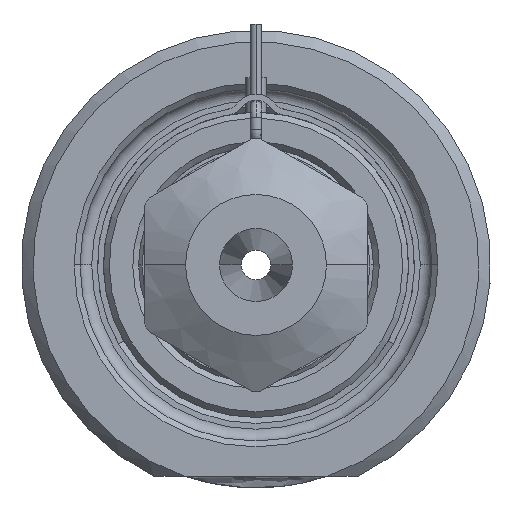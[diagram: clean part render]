
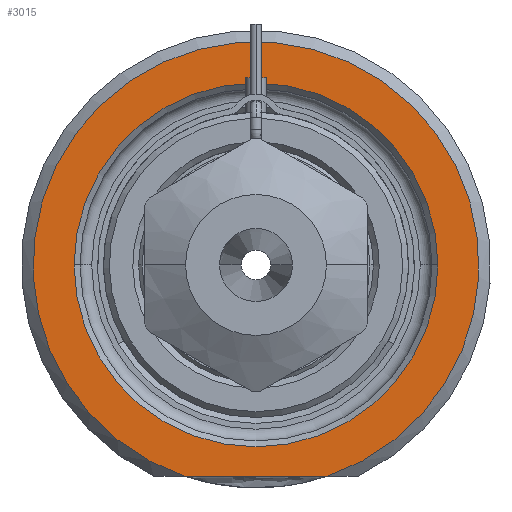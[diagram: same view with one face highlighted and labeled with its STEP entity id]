
A CAD part, front view. The second image highlights one B-rep face of the part: STEP entity #3015.
In plain terms, the highlighted planar face has unit normal (0, -1, 0).
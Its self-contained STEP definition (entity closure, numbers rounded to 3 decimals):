
#1=DIRECTION('',(1.,0.,0.));
#2=VECTOR('',#1,12.166);
#3=CARTESIAN_POINT('',(-6.083,0.,-18.));
#4=LINE('',#3,#2);
#5=CARTESIAN_POINT('',(0.,0.,0.));
#6=DIRECTION('',(0.,1.,0.));
#7=DIRECTION('',(-1.,0.,0.));
#8=AXIS2_PLACEMENT_3D('',#5,#6,#7);
#10=CARTESIAN_POINT('',(0.,0.,0.));
#11=DIRECTION('',(0.,1.,0.));
#12=DIRECTION('',(1.,0.,0.));
#13=AXIS2_PLACEMENT_3D('',#10,#11,#12);
#264=CARTESIAN_POINT('',(0.,0.,0.));
#265=DIRECTION('',(0.,-1.,0.));
#266=DIRECTION('',(0.32,0.,-0.947));
#267=AXIS2_PLACEMENT_3D('',#264,#265,#266);
#2547=CARTESIAN_POINT('',(-15.5,0.,0.));
#2548=CARTESIAN_POINT('',(15.5,0.,0.));
#2549=VERTEX_POINT('',#2547);
#2550=VERTEX_POINT('',#2548);
#2605=CARTESIAN_POINT('',(-6.083,0.,-18.));
#2606=CARTESIAN_POINT('',(6.083,0.,-18.));
#2607=VERTEX_POINT('',#2605);
#2608=VERTEX_POINT('',#2606);
#2998=CARTESIAN_POINT('',(0.,0.,0.));
#2999=DIRECTION('',(0.,-1.,0.));
#3000=DIRECTION('',(1.,0.,0.));
#3001=AXIS2_PLACEMENT_3D('',#2998,#2999,#3000);
#3002=PLANE('',#3001);
#3004=ORIENTED_EDGE('',*,*,#3003,.F.);
#3006=ORIENTED_EDGE('',*,*,#3005,.F.);
#3007=EDGE_LOOP('',(#3004,#3006));
#3008=FACE_OUTER_BOUND('',#3007,.F.);
#3010=ORIENTED_EDGE('',*,*,#3009,.F.);
#3012=ORIENTED_EDGE('',*,*,#3011,.F.);
#3013=EDGE_LOOP('',(#3010,#3012));
#3014=FACE_BOUND('',#3013,.F.);
#3015=ADVANCED_FACE('',(#3008,#3014),#3002,.T.);
#9=CIRCLE('',#8,15.5);
#14=CIRCLE('',#13,15.5);
#268=CIRCLE('',#267,19.);
#3003=EDGE_CURVE('',#2607,#2608,#4,.T.);
#3005=EDGE_CURVE('',#2608,#2607,#268,.T.);
#3009=EDGE_CURVE('',#2549,#2550,#9,.T.);
#3011=EDGE_CURVE('',#2550,#2549,#14,.T.);
